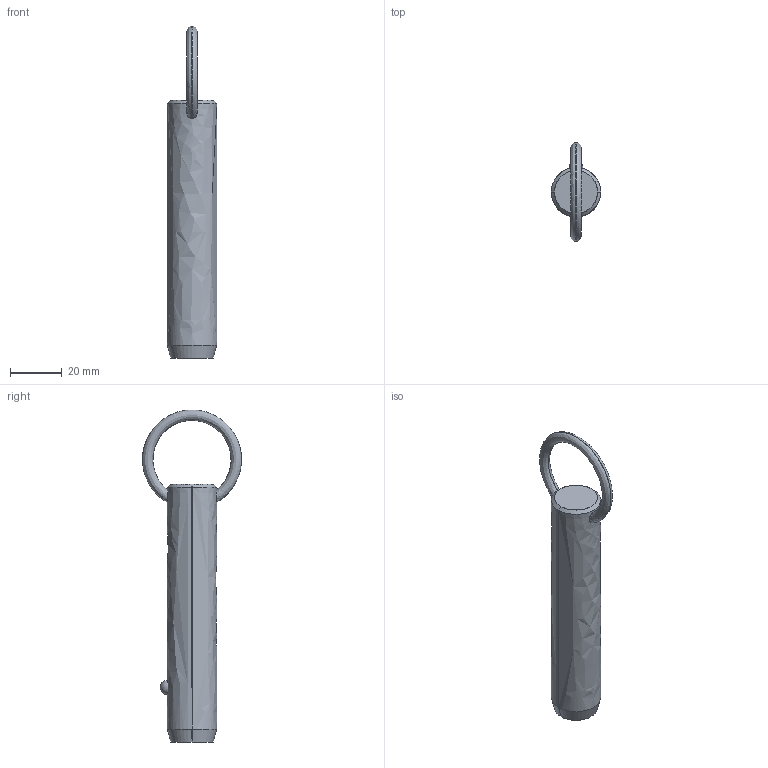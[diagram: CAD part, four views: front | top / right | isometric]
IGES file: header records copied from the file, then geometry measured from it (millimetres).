
Start section: SolidWorks IGES file using analytic representation for surfaces
Global section: file name: C:\Users\liam_\OneDrive\Documents\WORK\Work for WixRoyd\Job Files\J-00019 - Matt Davis CAD Checking\04. CAD Drawings\automotion20190605\P1250.2_v2\P1250.2_v2_20190729_IGES\P1250.075-260.igs; native system: SolidWorks 2017; preprocessor: SolidWorks 2017; author: liam_; date: 190729.235031; units: millimetre
Bounding box: 19 x 38.09 x 127.78 mm (x, y, z)
Surface area: 7454.1 mm2 (no closed solid volume)
Topology: 0 solids, 0 shells, 12 faces, 294 edges, 292 vertices
Faces by surface type: revolution 8, bspline 4
